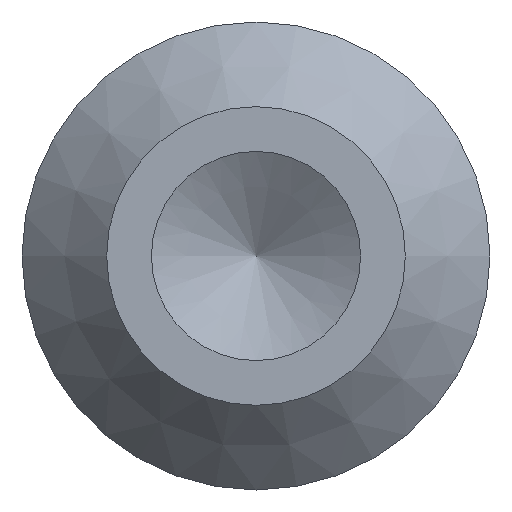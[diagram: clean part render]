
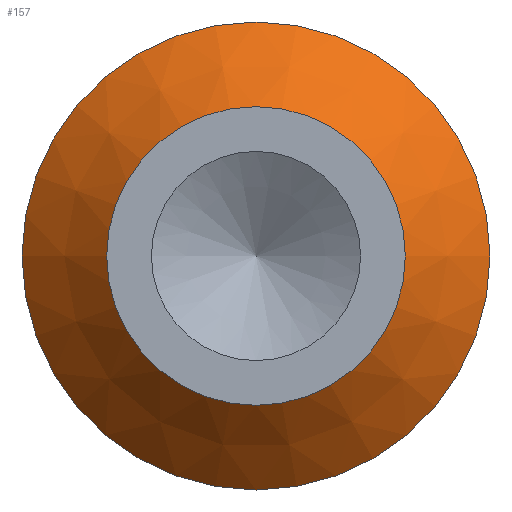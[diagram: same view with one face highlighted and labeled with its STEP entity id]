
A CAD part, left-side view. The second image highlights one B-rep face of the part: STEP entity #157.
In plain terms, the highlighted conical face has half-angle 45 degrees and reference radius 0.978 mm.
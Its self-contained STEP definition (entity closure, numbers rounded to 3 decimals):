
#21=FACE_BOUND($,#60,.T.);
#45=FACE_OUTER_BOUND($,#59,.T.);
#59=EDGE_LOOP($,(#129));
#60=EDGE_LOOP($,(#130));
#84=CIRCLE($,#177,0.762);
#86=CIRCLE($,#180,1.194);
#98=VERTEX_POINT($,#269);
#100=VERTEX_POINT($,#274);
#112=EDGE_CURVE($,#98,#98,#84,.T.);
#114=EDGE_CURVE($,#100,#100,#86,.T.);
#129=ORIENTED_EDGE($,*,*,#114,.F.);
#130=ORIENTED_EDGE($,*,*,#112,.T.);
#153=CONICAL_SURFACE($,#179,0.978,45.);
#157=ADVANCED_FACE($,(#45,#21),#153,.T.);
#177=AXIS2_PLACEMENT_3D($,#270,#213,#214);
#179=AXIS2_PLACEMENT_3D($,#273,#217,#218);
#180=AXIS2_PLACEMENT_3D($,#275,#219,#220);
#213=DIRECTION('center_axis',(1.,0.,0.));
#214=DIRECTION('ref_axis',(0.,1.,0.));
#217=DIRECTION('center_axis',(1.,0.,0.));
#218=DIRECTION('ref_axis',(0.,1.,0.));
#219=DIRECTION('center_axis',(1.,0.,0.));
#220=DIRECTION('ref_axis',(0.,1.,0.));
#269=CARTESIAN_POINT('',(3.175,0.762,0.));
#270=CARTESIAN_POINT('Origin',(3.175,0.,0.));
#273=CARTESIAN_POINT('Origin',(3.391,0.,0.));
#274=CARTESIAN_POINT('',(3.607,1.194,0.));
#275=CARTESIAN_POINT('Origin',(3.607,0.,0.));
